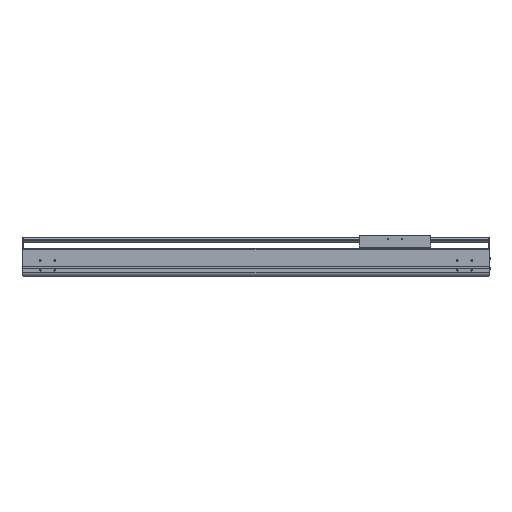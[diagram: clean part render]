
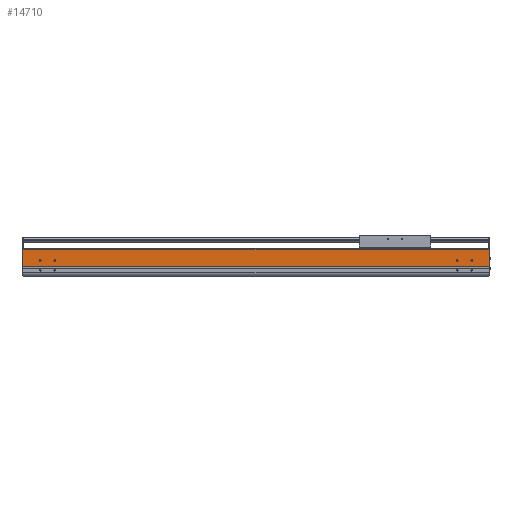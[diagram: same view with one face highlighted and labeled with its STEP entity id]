
A CAD part, top view. The second image highlights one B-rep face of the part: STEP entity #14710.
In plain terms, the highlighted planar face has unit normal (0, 0, 1).
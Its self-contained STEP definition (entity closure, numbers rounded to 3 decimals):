
#1768=DIRECTION('',(0.,-1.,0.));
#1769=VECTOR('',#1768,2.55);
#1770=CARTESIAN_POINT('',(0.,34.65,107.));
#1771=LINE('',#1770,#1769);
#2251=DIRECTION('',(1.,0.,0.));
#2252=VECTOR('',#2251,2.);
#2253=CARTESIAN_POINT('',(-1621.,34.65,107.));
#2254=LINE('',#2253,#2252);
#2255=CARTESIAN_POINT('',(-59.5,54.,107.));
#2256=DIRECTION('',(0.,0.,-1.));
#2257=DIRECTION('',(1.,0.,0.));
#2258=AXIS2_PLACEMENT_3D('',#2255,#2256,#2257);
#2260=CARTESIAN_POINT('',(-59.5,54.,107.));
#2261=DIRECTION('',(0.,0.,-1.));
#2262=DIRECTION('',(-1.,0.,0.));
#2263=AXIS2_PLACEMENT_3D('',#2260,#2261,#2262);
#2265=CARTESIAN_POINT('',(-109.5,54.,107.));
#2266=DIRECTION('',(0.,0.,-1.));
#2267=DIRECTION('',(1.,0.,0.));
#2268=AXIS2_PLACEMENT_3D('',#2265,#2266,#2267);
#2270=CARTESIAN_POINT('',(-109.5,54.,107.));
#2271=DIRECTION('',(0.,0.,-1.));
#2272=DIRECTION('',(-1.,0.,0.));
#2273=AXIS2_PLACEMENT_3D('',#2270,#2271,#2272);
#2275=CARTESIAN_POINT('',(-1559.5,54.,107.));
#2276=DIRECTION('',(0.,0.,-1.));
#2277=DIRECTION('',(1.,0.,0.));
#2278=AXIS2_PLACEMENT_3D('',#2275,#2276,#2277);
#2280=CARTESIAN_POINT('',(-1559.5,54.,107.));
#2281=DIRECTION('',(0.,0.,-1.));
#2282=DIRECTION('',(-1.,0.,0.));
#2283=AXIS2_PLACEMENT_3D('',#2280,#2281,#2282);
#2285=CARTESIAN_POINT('',(-1509.5,54.,107.));
#2286=DIRECTION('',(0.,0.,-1.));
#2287=DIRECTION('',(1.,0.,0.));
#2288=AXIS2_PLACEMENT_3D('',#2285,#2286,#2287);
#2290=CARTESIAN_POINT('',(-1509.5,54.,107.));
#2291=DIRECTION('',(0.,0.,-1.));
#2292=DIRECTION('',(-1.,0.,0.));
#2293=AXIS2_PLACEMENT_3D('',#2290,#2291,#2292);
#2295=DIRECTION('',(0.,-1.,0.));
#2296=VECTOR('',#2295,2.55);
#2297=CARTESIAN_POINT('',(-1619.,34.65,107.));
#2298=LINE('',#2297,#2296);
#2299=DIRECTION('',(0.,-1.,0.));
#2300=VECTOR('',#2299,58.85);
#2301=CARTESIAN_POINT('',(-1621.,93.5,107.));
#2302=LINE('',#2301,#2300);
#2303=DIRECTION('',(0.,1.,0.));
#2304=VECTOR('',#2303,58.85);
#2305=CARTESIAN_POINT('',(2.,34.65,107.));
#2306=LINE('',#2305,#2304);
#2307=DIRECTION('',(1.,0.,0.));
#2308=VECTOR('',#2307,1619.);
#2309=CARTESIAN_POINT('',(-1619.,32.1,107.));
#2310=LINE('',#2309,#2308);
#2415=DIRECTION('',(-1.,0.,0.));
#2416=VECTOR('',#2415,1623.);
#2417=CARTESIAN_POINT('',(2.,93.5,107.));
#2418=LINE('',#2417,#2416);
#7961=DIRECTION('',(1.,0.,0.));
#7962=VECTOR('',#7961,2.);
#7963=CARTESIAN_POINT('',(0.,34.65,107.));
#7964=LINE('',#7963,#7962);
#9361=CARTESIAN_POINT('',(-1621.,34.65,107.));
#9362=VERTEX_POINT('',#9361);
#9363=CARTESIAN_POINT('',(-1621.,93.5,107.));
#9364=VERTEX_POINT('',#9363);
#9593=CARTESIAN_POINT('',(-1619.,32.1,107.));
#9594=VERTEX_POINT('',#9593);
#9909=CARTESIAN_POINT('',(0.,32.1,107.));
#9910=VERTEX_POINT('',#9909);
#9911=CARTESIAN_POINT('',(-57.,54.,107.));
#9912=CARTESIAN_POINT('',(-62.,54.,107.));
#9913=VERTEX_POINT('',#9911);
#9914=VERTEX_POINT('',#9912);
#9915=CARTESIAN_POINT('',(-107.,54.,107.));
#9916=CARTESIAN_POINT('',(-112.,54.,107.));
#9917=VERTEX_POINT('',#9915);
#9918=VERTEX_POINT('',#9916);
#9919=CARTESIAN_POINT('',(-1557.,54.,107.));
#9920=CARTESIAN_POINT('',(-1562.,54.,107.));
#9921=VERTEX_POINT('',#9919);
#9922=VERTEX_POINT('',#9920);
#9923=CARTESIAN_POINT('',(-1507.,54.,107.));
#9924=CARTESIAN_POINT('',(-1512.,54.,107.));
#9925=VERTEX_POINT('',#9923);
#9926=VERTEX_POINT('',#9924);
#10602=CARTESIAN_POINT('',(2.,34.65,107.));
#10603=VERTEX_POINT('',#10602);
#10604=CARTESIAN_POINT('',(2.,93.5,107.));
#10605=VERTEX_POINT('',#10604);
#11056=CARTESIAN_POINT('',(0.,34.65,107.));
#11057=VERTEX_POINT('',#11056);
#11136=CARTESIAN_POINT('',(-1619.,34.65,107.));
#11137=VERTEX_POINT('',#11136);
#14668=CARTESIAN_POINT('',(-809.5,62.8,107.));
#14669=DIRECTION('',(0.,0.,1.));
#14670=DIRECTION('',(0.,-1.,0.));
#14671=AXIS2_PLACEMENT_3D('',#14668,#14669,#14670);
#14672=PLANE('',#14671);
#14673=ORIENTED_EDGE('',*,*,#12154,.F.);
#14674=ORIENTED_EDGE('',*,*,#14663,.F.);
#14675=ORIENTED_EDGE('',*,*,#12783,.F.);
#14677=ORIENTED_EDGE('',*,*,#14676,.F.);
#14678=ORIENTED_EDGE('',*,*,#11891,.F.);
#14680=ORIENTED_EDGE('',*,*,#14679,.F.);
#14681=ORIENTED_EDGE('',*,*,#14271,.T.);
#14683=ORIENTED_EDGE('',*,*,#14682,.F.);
#14684=EDGE_LOOP('',(#14673,#14674,#14675,#14677,#14678,#14680,#14681,#14683));
#14685=FACE_OUTER_BOUND('',#14684,.F.);
#14687=ORIENTED_EDGE('',*,*,#14686,.F.);
#14689=ORIENTED_EDGE('',*,*,#14688,.F.);
#14690=EDGE_LOOP('',(#14687,#14689));
#14691=FACE_BOUND('',#14690,.F.);
#14693=ORIENTED_EDGE('',*,*,#14692,.F.);
#14695=ORIENTED_EDGE('',*,*,#14694,.F.);
#14696=EDGE_LOOP('',(#14693,#14695));
#14697=FACE_BOUND('',#14696,.F.);
#14699=ORIENTED_EDGE('',*,*,#14698,.F.);
#14701=ORIENTED_EDGE('',*,*,#14700,.F.);
#14702=EDGE_LOOP('',(#14699,#14701));
#14703=FACE_BOUND('',#14702,.F.);
#14705=ORIENTED_EDGE('',*,*,#14704,.F.);
#14707=ORIENTED_EDGE('',*,*,#14706,.F.);
#14708=EDGE_LOOP('',(#14705,#14707));
#14709=FACE_BOUND('',#14708,.F.);
#14710=ADVANCED_FACE('',(#14685,#14691,#14697,#14703,#14709),#14672,.T.);
#2259=CIRCLE('',#2258,2.5);
#2264=CIRCLE('',#2263,2.5);
#2269=CIRCLE('',#2268,2.5);
#2274=CIRCLE('',#2273,2.5);
#2279=CIRCLE('',#2278,2.5);
#2284=CIRCLE('',#2283,2.5);
#2289=CIRCLE('',#2288,2.5);
#2294=CIRCLE('',#2293,2.5);
#11891=EDGE_CURVE('',#10603,#10605,#2306,.T.);
#12154=EDGE_CURVE('',#11137,#9594,#2298,.T.);
#12783=EDGE_CURVE('',#9364,#9362,#2302,.T.);
#14271=EDGE_CURVE('',#11057,#9910,#1771,.T.);
#14663=EDGE_CURVE('',#9362,#11137,#2254,.T.);
#14676=EDGE_CURVE('',#10605,#9364,#2418,.T.);
#14679=EDGE_CURVE('',#11057,#10603,#7964,.T.);
#14682=EDGE_CURVE('',#9594,#9910,#2310,.T.);
#14686=EDGE_CURVE('',#9917,#9918,#2269,.T.);
#14688=EDGE_CURVE('',#9918,#9917,#2274,.T.);
#14692=EDGE_CURVE('',#9921,#9922,#2279,.T.);
#14694=EDGE_CURVE('',#9922,#9921,#2284,.T.);
#14698=EDGE_CURVE('',#9925,#9926,#2289,.T.);
#14700=EDGE_CURVE('',#9926,#9925,#2294,.T.);
#14704=EDGE_CURVE('',#9913,#9914,#2259,.T.);
#14706=EDGE_CURVE('',#9914,#9913,#2264,.T.);
